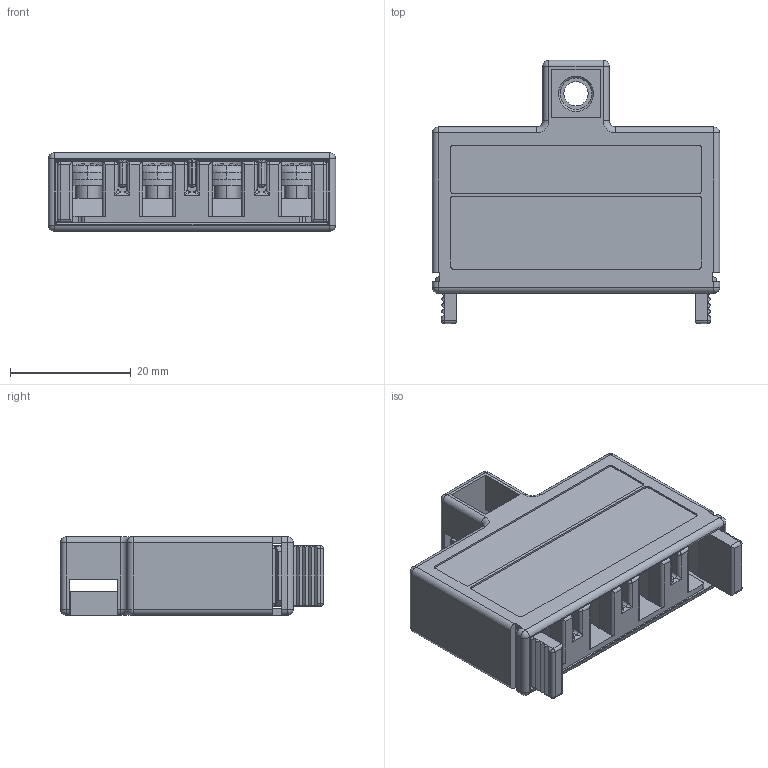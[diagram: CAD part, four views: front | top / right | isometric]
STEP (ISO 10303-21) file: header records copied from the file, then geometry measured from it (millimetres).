
FILE_DESCRIPTION(('Creo Elements/Direct Modeling STEP Export'),'2;1');
FILE_NAME('OA-QTM44.stp','2014-02-07T15:40:45',(''),(''),'Creo Elements/Direct Modeling STEP processor for AP214 (Solid Model)','Creo Elements/Direct Modeling 18.1B 29-Sep-2012 (C) Parametric Technology GmbH','');
FILE_SCHEMA(('AUTOMOTIVE_DESIGN { 1 0 10303 214 1 1 1 1 }'));
Length unit declared in the file: millimetre
Products named in the file (4): ねじ.1.1.1; ケース; 本体; OA-QTM44
Assembly tree (6 placements, depth 2):
  OA-QTM44
    ねじ.1.1.1  x4
    本体
    ケース
Bounding box: 47.5 x 43.5 x 13 mm (x, y, z)
Volume: 11781.9 mm3; surface area: 16120.2 mm2
Topology: 6 solids, 6 shells, 755 faces, 1956 edges, 1179 vertices
Faces by surface type: plane 378, cylinder 245, sphere 52, cone 44, torus 24, bspline 12
Entity records: 23022 total; most frequent: CARTESIAN_POINT 7125, ORIENTED_EDGE 3314, DIRECTION 3117, EDGE_CURVE 1657, VECTOR 1093, LINE 1093, VERTEX_POINT 1020, AXIS2_PLACEMENT_3D 1012
